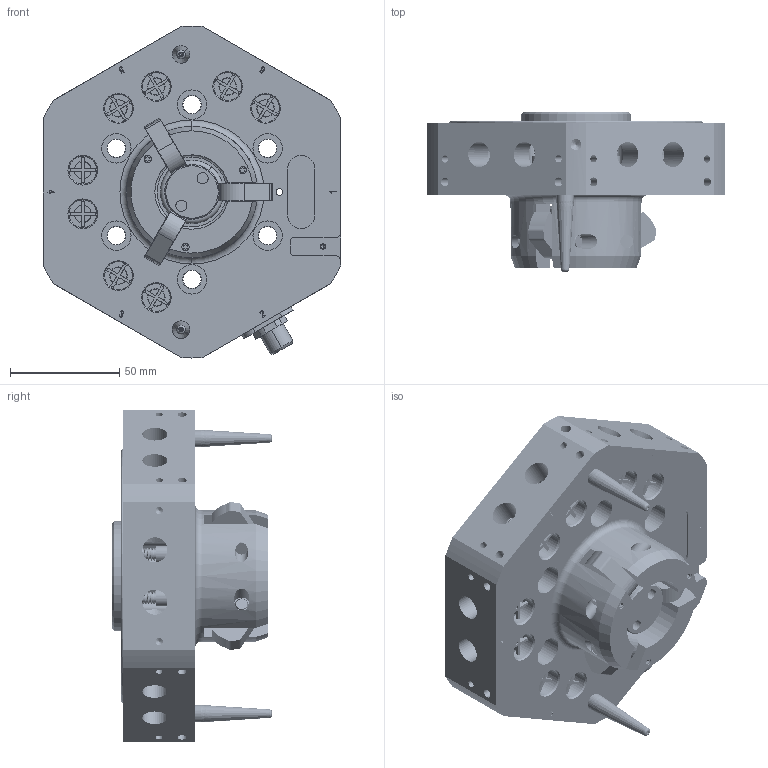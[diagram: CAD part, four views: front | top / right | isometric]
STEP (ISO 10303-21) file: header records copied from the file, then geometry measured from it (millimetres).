
FILE_DESCRIPTION (( 'STEP AP214' ), '1' );
FILE_NAME ('1700070A REV 00.STEP', '2018-11-13T18:52:02', ( 'Any Employee' ), ( 'Applied Robotics Inc.' ), 'SwSTEP 2.0', 'SolidWorks 2019', '' );
FILE_SCHEMA (( 'AUTOMOTIVE_DESIGN' ));
Length unit declared in the file: millimetre
Products named in the file (30): 48414; 48030; 0407-P80N; 0601-P58N; 97501-P1047; 1506-C48N; 87525-P1007; 97500-B1028; 1700036M; 48425; 48008; 1507-P19N; 1700033A; 1506-D46N; 91502-P1060; 86555-p1021; 1506-C53N; 1601-D25A; 96510-B1092; 1507-P01N; 89503-P1052; 97501-P1084; 48012; 1506-C55N; 1506-C47N; 49628_90967A120; 1700070A REV 00; 1502-C61N; 1506-C57N; 48427
Assembly tree (83 placements, depth 3):
  1700070A REV 00
    1601-D25A
      1506-D46N
      1506-C47N
      1506-C48N
      1506-C53N
      1502-C61N  x3
      97500-B1028  x3
      96510-B1092  x2
      48427  x5
      48425  x3
      89503-P1052  x9
      48030  x2
      1507-P19N
      48012  x6
      0601-P58N
      91502-P1060
      49628_90967A120
      87525-P1007
    1700033A
      1506-C57N
      1700036M
      1507-P01N  x2
      48414  x2
      48012  x4
      48008  x2
      97501-P1084  x2
      0407-P80N
    1506-C55N  x8
    97501-P1047  x8
    86555-p1021  x8
Bounding box: 136 x 73.02 x 152 mm (x, y, z)
Volume: 519131.9 mm3; surface area: 166853.4 mm2
Topology: 81 solids, 81 shells, 2470 faces, 5956 edges, 3766 vertices
Faces by surface type: plane 1019, cylinder 746, cone 285, bspline 215, torus 205
Entity records: 68907 total; most frequent: CARTESIAN_POINT 29163, ORIENTED_EDGE 7722, DIRECTION 7593, EDGE_CURVE 3861, AXIS2_PLACEMENT_3D 2805, VERTEX_POINT 2487, LINE 1983, VECTOR 1983
